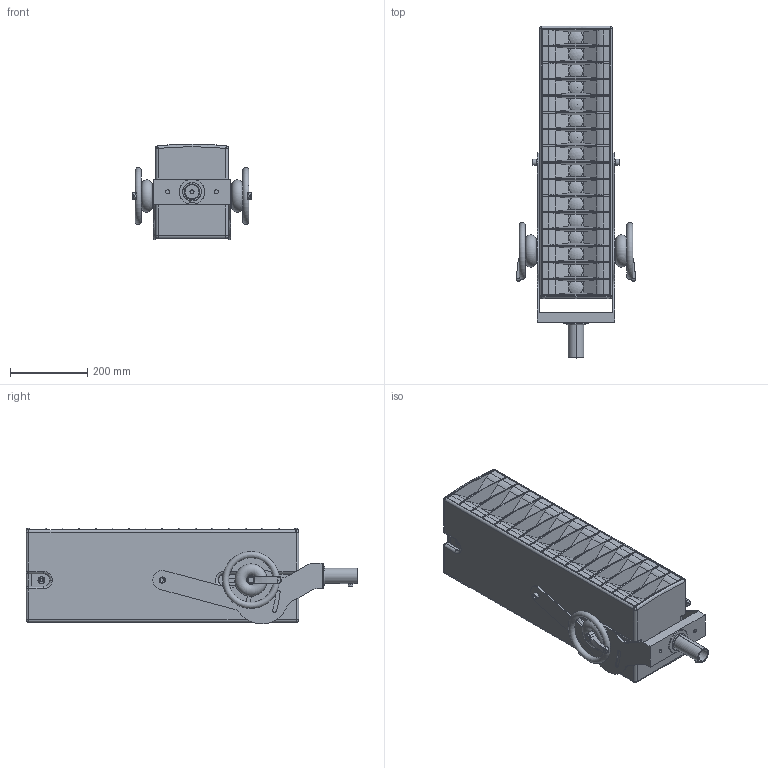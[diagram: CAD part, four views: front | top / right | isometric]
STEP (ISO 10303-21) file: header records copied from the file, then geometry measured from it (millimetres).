
FILE_DESCRIPTION (( 'STEP AP203' ), '1' );
FILE_NAME ('Seeburg_GL16i_Bracket-ver.STEP', '2012-10-15T13:41:29', ( 'Fabian' ), ( '' ), 'SwSTEP 2.0', 'SolidWorks 2009', '' );
FILE_SCHEMA (( 'CONFIG_CONTROL_DESIGN' ));
Length unit declared in the file: millimetre
Products named in the file (2): GL16i_Bracket-ver; Seeburg_GL16i_Bracket-ver
Assembly tree (1 placements, depth 2):
  Seeburg_GL16i_Bracket-ver
    GL16i_Bracket-ver
Bounding box: 308.25 x 862 x 248.92 mm (x, y, z)
Volume: 11528191.6 mm3; surface area: 2109333.1 mm2
Topology: 56 solids, 56 shells, 1244 faces, 3164 edges, 2018 vertices
Faces by surface type: plane 533, cylinder 514, cone 107, torus 46, sphere 40, bspline 4
Entity records: 40641 total; most frequent: CARTESIAN_POINT 10287, DIRECTION 6447, ORIENTED_EDGE 6246, EDGE_CURVE 3123, AXIS2_PLACEMENT_3D 2380, VERTEX_POINT 1996, LINE 1687, VECTOR 1687
